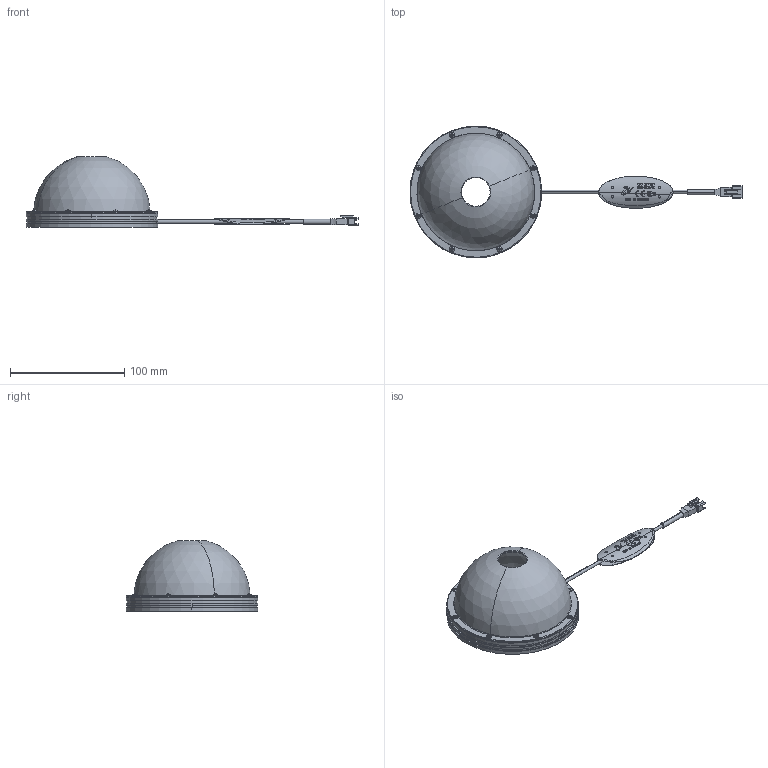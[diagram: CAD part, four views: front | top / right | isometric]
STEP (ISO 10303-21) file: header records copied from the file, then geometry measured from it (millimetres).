
FILE_DESCRIPTION(('STEP AP214'),'1');
FILE_NAME('VDO-115_DRAWING_3D.step','2023-09-12T10:04:18',(' '),(' '),'Spatial InterOp 3D',' ',' ');
FILE_SCHEMA(('AUTOMOTIVE_DESIGN { 1 0 10303 214 1 1 1 1 }'));
Length unit declared in the file: millimetre
Products named in the file (9): 3P; CABEL TAG (VS); BASE_115; DOME_115; R7M-1; OFA249A; MXB4949_1; REFLECTOR
Assembly tree (18 placements, depth 2):
  (unnamed)
    3P
    CABEL TAG (VS)
    BASE_115
    DOME_115
    R7M-1
    OFA249A  x4
    MXB4949_1  x8
    REFLECTOR
Bounding box: 290 x 115 x 61.32 mm (x, y, z)
Volume: 91212.9 mm3; surface area: 82670.7 mm2
Topology: 43 solids, 44 shells, 792 faces, 2214 edges, 1542 vertices
Faces by surface type: plane 340, cylinder 327, sphere 52, cone 45, torus 22, bspline 6
Entity records: 24085 total; most frequent: CARTESIAN_POINT 5540, ORIENTED_EDGE 3112, DIRECTION 2739, EDGE_CURVE 1556, VERTEX_POINT 1132, AXIS2_PLACEMENT_3D 991, LINE 757, VECTOR 757
